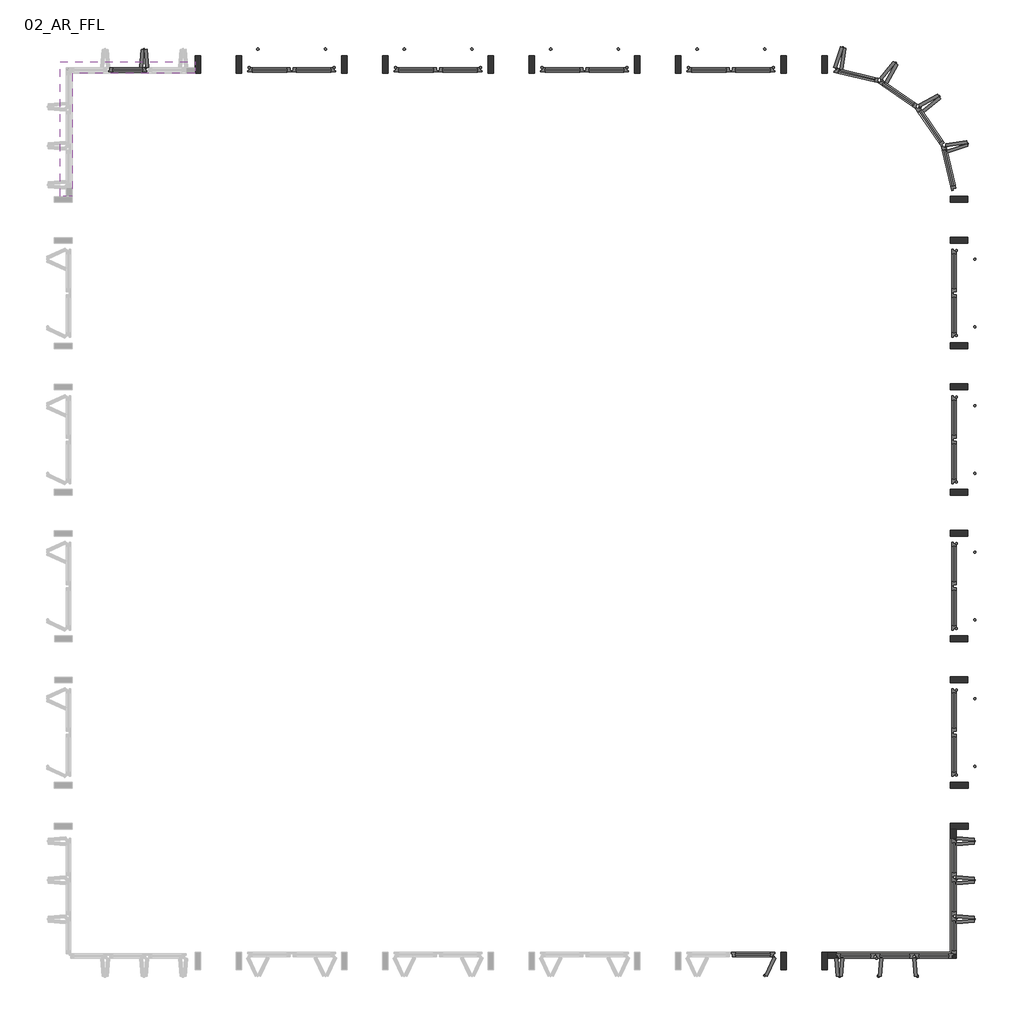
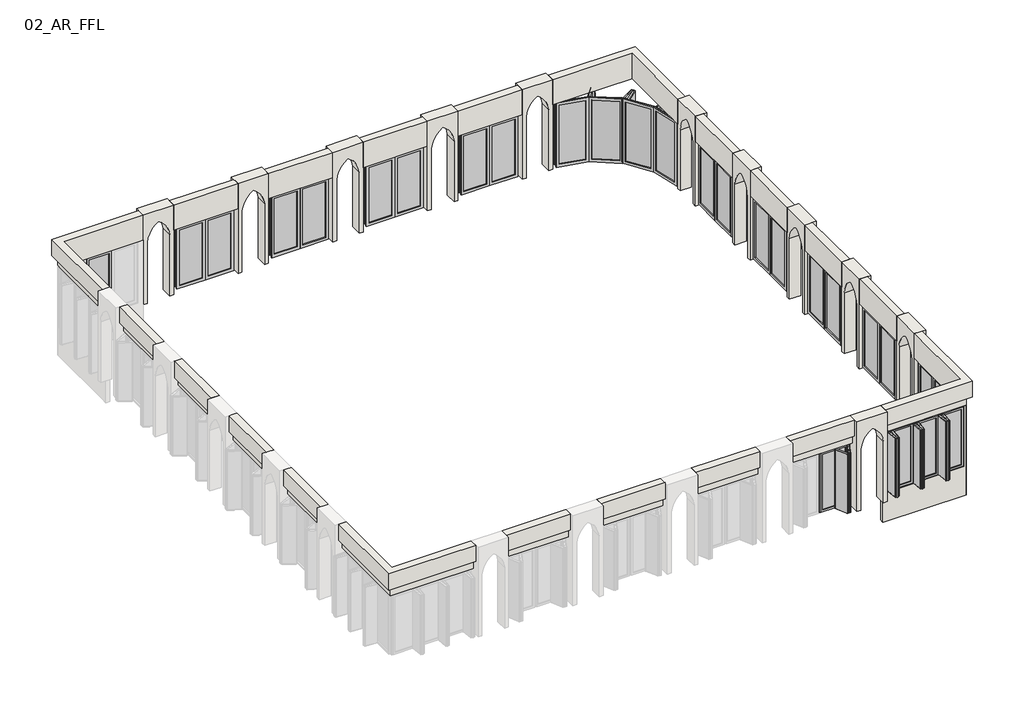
# One storey, part 2 of 2: 28 plates, 14 walls.
"""IFC4 building model written with IfcOpenShell, lengths in millimetres."""

from ifc_helpers import new_model, si_unit, point, frame, frame_2d, origin, place, context, project, spatial, polyline, circle_curve, trimmed, segment, composite_curve, outline, extrude, faceted_brep, transform, mapped, element, save
from ifc_brep_helpers import plane_surface, revolved_surface, advanced_brep
from components import vert_blinds_6ffad1b3, vert_blinds_b0ecc8bd, vert_blinds_15b416f4, vert_blinds_bcc53d70, vert_blinds_017c0e32, vert_blinds_d529f47b, vert_blinds_4d8db30e, vert_blinds_f8158ca6, vert_blinds_48d4288f, wall_94556f3f

model = new_model("IFC4")

# Units and contexts
model_context = context("Model", 3, world=origin())
ifc_project = project(units=[si_unit("LENGTHUNIT", "METRE", prefix="MILLI")], contexts=[model_context])

# Site, building, storey
site = spatial("IfcSite", under=ifc_project)
building = spatial("IfcBuilding", under=site)
storey = spatial("IfcBuildingStorey", under=building, Name="02_AR_FFL", Elevation=9000.0)

# Plates
placement = place(None, origin())
vert_blinds_shape = vert_blinds_6ffad1b3(model_context)
element("IfcPlate", 1, ObjectType="CURTAIN PANEL VODA STYLE BIFOLDING : VERT_BLINDS", at=placement, inside=storey, context=model_context, shape_type="MappedRepresentation", body=[
    mapped(vert_blinds_shape, transform((-48.5775323, -1154.430099, 9100.0), x_axis=(1.0, 0.0, 0.0), y_axis=(0.0, 1.0, 0.0), z_axis=(0.0, 0.0, 1.0))),
])
element("IfcPlate", 2, ObjectType="CURTAIN PANEL VODA STYLE BIFOLDING : VERT_BLINDS", at=placement, inside=storey, context=model_context, shape_type="MappedRepresentation", body=[
    mapped(vert_blinds_shape, transform((-2548.5775323, -1154.430099, 9100.0), x_axis=(1.0, 0.0, 0.0), y_axis=(0.0, 1.0, 0.0), z_axis=(0.0, 0.0, 1.0))),
])
element("IfcPlate", 3, ObjectType="CURTAIN PANEL VODA STYLE BIFOLDING : VERT_BLINDS", at=placement, inside=storey, context=model_context, shape_type="MappedRepresentation", body=[
    mapped(vert_blinds_shape, transform((-7548.5775323, -1154.430099, 9100.0), x_axis=(1.0, 0.0, 0.0), y_axis=(0.0, 1.0, 0.0), z_axis=(0.0, 0.0, 1.0))),
])
element("IfcPlate", 4, ObjectType="CURTAIN PANEL VODA STYLE BIFOLDING : VERT_BLINDS", at=placement, inside=storey, context=model_context, shape_type="MappedRepresentation", body=[
    mapped(vert_blinds_shape, transform((-5048.5775323, -1154.430099, 9100.0), x_axis=(1.0, 0.0, 0.0), y_axis=(0.0, 1.0, 0.0), z_axis=(0.0, 0.0, 1.0))),
])
element("IfcPlate", 5, ObjectType="CURTAIN PANEL VODA STYLE BIFOLDING : VERT_BLINDS", at=placement, inside=storey, context=model_context, shape_type="MappedRepresentation", body=[
    mapped(vert_blinds_shape, transform((4124.232124, -4577.2397554, 9100.0), x_axis=(0.0, -1.0, 0.0), y_axis=(1.0, 0.0, 0.0), z_axis=(0.0, 0.0, 1.0))),
])
element("IfcPlate", 6, ObjectType="CURTAIN PANEL VODA STYLE BIFOLDING : VERT_BLINDS", at=placement, inside=storey, context=model_context, shape_type="MappedRepresentation", body=[
    mapped(vert_blinds_shape, transform((4124.232124, -7077.2397554, 9100.0), x_axis=(0.0, -1.0, 0.0), y_axis=(1.0, 0.0, 0.0), z_axis=(0.0, 0.0, 1.0))),
])
element("IfcPlate", 7, ObjectType="CURTAIN PANEL VODA STYLE BIFOLDING : VERT_BLINDS", at=placement, inside=storey, context=model_context, shape_type="MappedRepresentation", body=[
    mapped(vert_blinds_shape, transform((4124.232124, -9577.2397554, 9100.0), x_axis=(0.0, -1.0, 0.0), y_axis=(1.0, 0.0, 0.0), z_axis=(0.0, 0.0, 1.0))),
])
element("IfcPlate", 8, ObjectType="CURTAIN PANEL VODA STYLE BIFOLDING : VERT_BLINDS", at=placement, inside=storey, context=model_context, shape_type="MappedRepresentation", body=[
    mapped(vert_blinds_shape, transform((4124.232124, -12077.2397554, 9100.0), x_axis=(0.0, -1.0, 0.0), y_axis=(1.0, 0.0, 0.0), z_axis=(0.0, 0.0, 1.0))),
])
vert_blinds_2_shape = vert_blinds_b0ecc8bd(model_context)
element("IfcPlate", 9, ObjectType="CURTAIN PANEL VODA STYLE BIFOLDING : VERT_BLINDS", at=placement, inside=storey, context=model_context, shape_type="MappedRepresentation", body=[
    mapped(vert_blinds_2_shape, transform((701.4224677, -1154.430099, 9100.0), x_axis=(-1.0, 0.0, 0.0), y_axis=(0.0, -1.0, 0.0), z_axis=(0.0, 0.0, 1.0))),
])
element("IfcPlate", 10, ObjectType="CURTAIN PANEL VODA STYLE BIFOLDING : VERT_BLINDS", at=placement, inside=storey, context=model_context, shape_type="MappedRepresentation", body=[
    mapped(vert_blinds_2_shape, transform((-1798.5775323, -1154.430099, 9100.0), x_axis=(-1.0, 0.0, 0.0), y_axis=(0.0, -1.0, 0.0), z_axis=(0.0, 0.0, 1.0))),
])
element("IfcPlate", 11, ObjectType="CURTAIN PANEL VODA STYLE BIFOLDING : VERT_BLINDS", at=placement, inside=storey, context=model_context, shape_type="MappedRepresentation", body=[
    mapped(vert_blinds_2_shape, transform((-6798.5775323, -1154.430099, 9100.0), x_axis=(-1.0, 0.0, 0.0), y_axis=(0.0, -1.0, 0.0), z_axis=(0.0, 0.0, 1.0))),
])
element("IfcPlate", 12, ObjectType="CURTAIN PANEL VODA STYLE BIFOLDING : VERT_BLINDS", at=placement, inside=storey, context=model_context, shape_type="MappedRepresentation", body=[
    mapped(vert_blinds_2_shape, transform((-4298.5775323, -1154.430099, 9100.0), x_axis=(-1.0, 0.0, 0.0), y_axis=(0.0, -1.0, 0.0), z_axis=(0.0, 0.0, 1.0))),
])
element("IfcPlate", 13, ObjectType="CURTAIN PANEL VODA STYLE BIFOLDING : VERT_BLINDS", at=placement, inside=storey, context=model_context, shape_type="MappedRepresentation", body=[
    mapped(vert_blinds_2_shape, transform((4124.232124, -5327.2397554, 9100.0), x_axis=(0.0, 1.0, 0.0), y_axis=(-1.0, 0.0, 0.0), z_axis=(0.0, 0.0, 1.0))),
])
element("IfcPlate", 14, ObjectType="CURTAIN PANEL VODA STYLE BIFOLDING : VERT_BLINDS", at=placement, inside=storey, context=model_context, shape_type="MappedRepresentation", body=[
    mapped(vert_blinds_2_shape, transform((4124.232124, -7827.2397554, 9100.0), x_axis=(0.0, 1.0, 0.0), y_axis=(-1.0, 0.0, 0.0), z_axis=(0.0, 0.0, 1.0))),
])
element("IfcPlate", 15, ObjectType="CURTAIN PANEL VODA STYLE BIFOLDING : VERT_BLINDS", at=placement, inside=storey, context=model_context, shape_type="MappedRepresentation", body=[
    mapped(vert_blinds_2_shape, transform((4124.232124, -10327.2397554, 9100.0), x_axis=(0.0, 1.0, 0.0), y_axis=(-1.0, 0.0, 0.0), z_axis=(0.0, 0.0, 1.0))),
])
element("IfcPlate", 16, ObjectType="CURTAIN PANEL VODA STYLE BIFOLDING : VERT_BLINDS", at=placement, inside=storey, context=model_context, shape_type="MappedRepresentation", body=[
    mapped(vert_blinds_2_shape, transform((4124.232124, -12827.2397554, 9100.0), x_axis=(0.0, 1.0, 0.0), y_axis=(-1.0, 0.0, 0.0), z_axis=(0.0, 0.0, 1.0))),
])
vert_blinds_3_shape = vert_blinds_15b416f4(model_context)
element("IfcPlate", 17, ObjectType="CURTAIN PANEL VODA STYLE BIFOLDING : VERT_BLINDS", at=placement, inside=storey, context=model_context, shape_type="MappedRepresentation", body=[
    mapped(vert_blinds_3_shape, transform((2457.5252924, -16254.430099, 9100.0), x_axis=(1.0, 0.0, 0.0), y_axis=(0.0, 1.0, 0.0), z_axis=(0.0, 0.0, 1.0))),
])
element("IfcPlate", 18, ObjectType="CURTAIN PANEL VODA STYLE BIFOLDING : VERT_BLINDS", at=placement, inside=storey, context=model_context, shape_type="MappedRepresentation", body=[
    mapped(vert_blinds_3_shape, transform((3124.1919591, -16254.430099, 9100.0), x_axis=(1.0, 0.0, 0.0), y_axis=(0.0, 1.0, 0.0), z_axis=(0.0, 0.0, 1.0))),
])
element("IfcPlate", 19, ObjectType="CURTAIN PANEL VODA STYLE BIFOLDING : VERT_BLINDS", at=placement, inside=storey, context=model_context, shape_type="MappedRepresentation", body=[
    mapped(vert_blinds_3_shape, transform((3790.8586258, -16254.430099, 9100.0), x_axis=(1.0, 0.0, 0.0), y_axis=(0.0, 1.0, 0.0), z_axis=(0.0, 0.0, 1.0))),
])
element("IfcPlate", 20, ObjectType="CURTAIN PANEL VODA STYLE BIFOLDING : VERT_BLINDS", at=placement, inside=storey, context=model_context, shape_type="MappedRepresentation", body=[
    mapped(vert_blinds_3_shape, transform((-9971.3470237, -1154.430099, 9100.0), x_axis=(-1.0, 0.0, 0.0), y_axis=(0.0, -1.0, 0.0), z_axis=(0.0, 0.0, 1.0))),
])
vert_blinds_4_shape = vert_blinds_bcc53d70(model_context)
element("IfcPlate", 21, ObjectType="CURTAIN PANEL VODA STYLE BIFOLDING : VERT_BLINDS", at=placement, inside=storey, context=model_context, shape_type="MappedRepresentation", body=[
    mapped(vert_blinds_4_shape, transform((4124.1919591, -15921.0967657, 9100.0), x_axis=(0.0, -1.0, 0.0), y_axis=(1.0, 0.0, 0.0), z_axis=(0.0, 0.0, 1.0))),
])
element("IfcPlate", 22, ObjectType="CURTAIN PANEL VODA STYLE BIFOLDING : VERT_BLINDS", at=placement, inside=storey, context=model_context, shape_type="MappedRepresentation", body=[
    mapped(vert_blinds_4_shape, transform((4124.1919591, -14587.7634324, 9100.0), x_axis=(0.0, -1.0, 0.0), y_axis=(1.0, 0.0, 0.0), z_axis=(0.0, 0.0, 1.0))),
])
element("IfcPlate", 23, ObjectType="CURTAIN PANEL VODA STYLE BIFOLDING : VERT_BLINDS", at=placement, inside=storey, context=model_context, shape_type="MappedRepresentation", body=[
    mapped(vert_blinds_4_shape, transform((4124.1919591, -15254.430099, 9100.0), x_axis=(0.0, -1.0, 0.0), y_axis=(1.0, 0.0, 0.0), z_axis=(0.0, 0.0, 1.0))),
])
vert_blinds_5_shape = vert_blinds_017c0e32(model_context)
element("IfcPlate", 24, ObjectType="CURTAIN PANEL VODA STYLE BIFOLDING : VERT_BLINDS", at=placement, inside=storey, context=model_context, shape_type="MappedRepresentation", body=[
    mapped(vert_blinds_5_shape, transform((701.4224677, -16229.430099, 9100.0), x_axis=(-1.0, 0.0, 0.0), y_axis=(0.0, -1.0, 0.0), z_axis=(0.0, 0.0, 1.0))),
])
vert_blinds_6_shape = vert_blinds_d529f47b(model_context)
element("IfcPlate", 25, ObjectType="CURTAIN PANEL VODA STYLE BIFOLDING : VERT_BLINDS", at=placement, inside=storey, context=model_context, shape_type="MappedRepresentation", body=[
    mapped(vert_blinds_6_shape, transform((2471.578616, -1249.5796599, 9000.0), x_axis=(0.9721730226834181, -0.2342639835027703, 0.0), y_axis=(0.2342639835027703, 0.9721730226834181, 0.0), z_axis=(0.0, 0.0, 1.0))),
])
vert_blinds_7_shape = vert_blinds_4d8db30e(model_context)
element("IfcPlate", 26, ObjectType="CURTAIN PANEL VODA STYLE BIFOLDING : VERT_BLINDS", at=placement, inside=storey, context=model_context, shape_type="MappedRepresentation", body=[
    mapped(vert_blinds_7_shape, transform((3177.0285393, -1564.5411613, 9000.0), x_axis=(0.8230618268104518, -0.5679517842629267, 0.0), y_axis=(0.5679517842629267, 0.8230618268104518, 0.0), z_axis=(0.0, 0.0, 1.0))),
])
vert_blinds_8_shape = vert_blinds_f8158ca6(model_context)
element("IfcPlate", 27, ObjectType="CURTAIN PANEL VODA STYLE BIFOLDING : VERT_BLINDS", at=placement, inside=storey, context=model_context, shape_type="MappedRepresentation", body=[
    mapped(vert_blinds_8_shape, transform((3722.3912272, -2113.5896916, 9000.0), x_axis=(0.5634683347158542, -0.8261376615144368, 0.0), y_axis=(0.8261376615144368, 0.5634683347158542, 0.0), z_axis=(0.0, 0.0, 1.0))),
])
vert_blinds_9_shape = vert_blinds_48d4288f(model_context)
element("IfcPlate", 28, ObjectType="CURTAIN PANEL VODA STYLE BIFOLDING : VERT_BLINDS", at=placement, inside=storey, context=model_context, shape_type="MappedRepresentation", body=[
    mapped(vert_blinds_9_shape, transform((4034.3748546, -2819.1956788, 9000.0), x_axis=(0.22949207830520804, -0.9733105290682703, 0.0), y_axis=(0.9733105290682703, 0.22949207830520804, 0.0), z_axis=(0.0, 0.0, 1.0))),
])

# Walls
wall_shape = wall_94556f3f(model_context)
element("IfcWall", 29, ObjectType="mukarnas_holder : mukarnas_holder", at=placement, inside=storey, context=model_context, shape_type="MappedRepresentation", body=[
    mapped(wall_shape, transform((0.0, 0.0, 0.0), x_axis=(1.0, 0.0, 0.0), y_axis=(0.0, 1.0, 0.0), z_axis=(0.0, 0.0, 1.0))),
])
element("IfcWall", 30, ObjectType="Generic - 100mm", at=placement, inside=storey, context=model_context, shape_type="Brep", body=[
    faceted_brep([(1976.4224677, -16304.430099, 8300.0), (4174.232124, -16304.430099, 8300.0), (4174.232124, -16304.430099, 10800.0), (4124.1919591, -16304.430099, 10800.0), (4124.1919591, -16304.430099, 9100.0), (2124.1919591, -16304.430099, 9100.0), (2124.1919591, -16304.430099, 10800.0), (1976.4224677, -16304.430099, 10800.0), (4074.232124, -16204.430099, 8300.0), (1976.4224677, -16204.430099, 8300.0), (1976.4224677, -16204.430099, 9000.0), (1976.4224677, -16204.430099, 10800.0), (2124.1919591, -16204.430099, 10800.0), (2124.1919591, -16204.430099, 9100.0), (4074.232124, -16204.430099, 9100.0), (4124.1919591, -16254.3899341, 10800.0), (4124.1919591, -16254.3899341, 9100.0)], [[[0, 1, 2, 3, 4, 5, 6, 7]], [[8, 9, 10, 11, 12, 13, 14]], [[1, 0, 9, 8]], [[11, 7, 6, 12]], [[3, 2, 15]], [[2, 1, 8, 14, 16, 15]], [[0, 7, 11, 10, 9]], [[5, 13, 12, 6]], [[16, 4, 3, 15]], [[13, 5, 4, 16, 14]]]),
])
element("IfcWall", 31, ObjectType="Generic - 100mm", at=placement, inside=storey, context=model_context, shape_type="Brep", body=[
    faceted_brep([(4074.232124, -14104.430099, 8300.0), (4074.232124, -16204.430099, 8300.0), (4074.232124, -16204.430099, 9100.0), (4074.232124, -14254.430099, 9100.0), (4074.232124, -14254.430099, 10800.0), (4074.232124, -14104.430099, 10800.0), (4074.232124, -14104.430099, 9000.0), (4174.232124, -16304.430099, 8300.0), (4174.232124, -14104.430099, 8300.0), (4174.232124, -14104.430099, 10800.0), (4174.232124, -14254.430099, 10800.0), (4174.232124, -14254.430099, 9100.0), (4174.232124, -16254.430099, 9100.0), (4174.232124, -16254.430099, 10800.0), (4174.232124, -16304.430099, 10800.0), (4124.232124, -16254.430099, 10800.0), (4124.232124, -16254.430099, 9100.0)], [[[0, 1, 2, 3, 4, 5, 6]], [[7, 8, 9, 10, 11, 12, 13, 14]], [[1, 0, 8, 7]], [[9, 5, 4, 10]], [[14, 13, 15]], [[1, 7, 14, 15, 16, 2]], [[0, 6, 5, 9, 8]], [[12, 16, 15, 13]], [[3, 11, 10, 4]], [[16, 12, 11, 3, 2]]]),
])
element("IfcWall", 32, ObjectType="Generic - 300mm", at=placement, inside=storey, context=model_context, shape_type="SweptSolid", body=[
    extrude(outline(composite_curve([segment(polyline([(9000.0, -8823.5775323), (9000.0, -8723.5775323), (10695.8151206, -8723.5775323)]), True, "CONTINUOUS"), segment(trimmed(circle_curve(frame_2d((10640.1496657, -8083.8020309)), 642.1925997), [point((10695.8151206, -8723.5775323))], [point((11185.0936479, -8423.5775323))], True, "CARTESIAN"), True, "CONTINUOUS"), segment(trimmed(circle_curve(frame_2d((10640.1496657, -8763.3530337)), 642.1925997), [point((11185.0936479, -8423.5775323))], [point((10695.8151206, -8123.5775323))], True, "CARTESIAN"), True, "CONTINUOUS"), segment(polyline([(10695.8151206, -8123.5775323), (9000.0, -8123.5775323), (9000.0, -8023.5775323), (11500.0, -8023.5775323), (11500.0, -8823.5775323), (9000.0, -8823.5775323)]), True, "CONTINUOUS")], self_intersect=False)), frame((0.0, -1204.430099, 0.0), z_axis=(0.0, 1.0, 0.0), x_axis=(0.0, 0.0, 1.0)), (0.0, 0.0, 1.0), 300.0),
])
element("IfcWall", 33, ObjectType="Generic - 300mm", at=placement, inside=storey, context=model_context, shape_type="SweptSolid", body=[
    extrude(outline(composite_curve([segment(polyline([(9000.0, -6323.5775323), (9000.0, -6223.5775323), (10695.8151206, -6223.5775323)]), True, "CONTINUOUS"), segment(trimmed(circle_curve(frame_2d((10640.1496657, -5583.8020309)), 642.1925997), [point((10695.8151206, -6223.5775323))], [point((11185.0936479, -5923.5775323))], True, "CARTESIAN"), True, "CONTINUOUS"), segment(trimmed(circle_curve(frame_2d((10640.1496657, -6263.3530337)), 642.1925997), [point((11185.0936479, -5923.5775323))], [point((10695.8151206, -5623.5775323))], True, "CARTESIAN"), True, "CONTINUOUS"), segment(polyline([(10695.8151206, -5623.5775323), (9000.0, -5623.5775323), (9000.0, -5523.5775323), (11500.0, -5523.5775323), (11500.0, -6323.5775323), (9000.0, -6323.5775323)]), True, "CONTINUOUS")], self_intersect=False)), frame((0.0, -1204.430099, 0.0), z_axis=(0.0, 1.0, 0.0), x_axis=(0.0, 0.0, 1.0)), (0.0, 0.0, 1.0), 300.0),
])
element("IfcWall", 34, ObjectType="Generic - 300mm", at=placement, inside=storey, context=model_context, shape_type="SweptSolid", body=[
    extrude(outline(composite_curve([segment(polyline([(9000.0, -3823.5775323), (9000.0, -3723.5775323), (10695.8151206, -3723.5775323)]), True, "CONTINUOUS"), segment(trimmed(circle_curve(frame_2d((10640.1496657, -3083.8020309)), 642.1925997), [point((10695.8151206, -3723.5775323))], [point((11185.0936479, -3423.5775323))], True, "CARTESIAN"), True, "CONTINUOUS"), segment(trimmed(circle_curve(frame_2d((10640.1496657, -3763.3530337)), 642.1925997), [point((11185.0936479, -3423.5775323))], [point((10695.8151206, -3123.5775323))], True, "CARTESIAN"), True, "CONTINUOUS"), segment(polyline([(10695.8151206, -3123.5775323), (9000.0, -3123.5775323), (9000.0, -3023.5775323), (11500.0, -3023.5775323), (11500.0, -3823.5775323), (9000.0, -3823.5775323)]), True, "CONTINUOUS")], self_intersect=False)), frame((0.0, -1204.430099, 0.0), z_axis=(0.0, 1.0, 0.0), x_axis=(0.0, 0.0, 1.0)), (0.0, 0.0, 1.0), 300.0),
])
element("IfcWall", 35, ObjectType="Generic - 300mm", at=placement, inside=storey, context=model_context, shape_type="SweptSolid", body=[
    extrude(outline(composite_curve([segment(polyline([(9000.0, -1323.5775323), (9000.0, -1223.5775323), (10695.8151206, -1223.5775323)]), True, "CONTINUOUS"), segment(trimmed(circle_curve(frame_2d((10640.1496657, -583.8020309)), 642.1925997), [point((10695.8151206, -1223.5775323))], [point((11185.0936479, -923.5775323))], True, "CARTESIAN"), True, "CONTINUOUS"), segment(trimmed(circle_curve(frame_2d((10640.1496657, -1263.3530337)), 642.1925997), [point((11185.0936479, -923.5775323))], [point((10695.8151206, -623.5775323))], True, "CARTESIAN"), True, "CONTINUOUS"), segment(polyline([(10695.8151206, -623.5775323), (9000.0, -623.5775323), (9000.0, -523.5775323), (11500.0, -523.5775323), (11500.0, -1323.5775323), (9000.0, -1323.5775323)]), True, "CONTINUOUS")], self_intersect=False)), frame((0.0, -1204.430099, 0.0), z_axis=(0.0, 1.0, 0.0), x_axis=(0.0, 0.0, 1.0)), (0.0, 0.0, 1.0), 300.0),
])
element("IfcWall", 36, ObjectType="Generic - 300mm", at=placement, inside=storey, context=model_context, shape_type="SweptSolid", body=[
    extrude(outline(composite_curve([segment(polyline([(9000.0, 1176.4224677), (9000.0, 1276.4224677), (10695.8151206, 1276.4224677)]), True, "CONTINUOUS"), segment(trimmed(circle_curve(frame_2d((10640.1496657, 1916.1979691)), 642.1925997), [point((10695.8151206, 1276.4224677))], [point((11185.0936479, 1576.4224677))], True, "CARTESIAN"), True, "CONTINUOUS"), segment(trimmed(circle_curve(frame_2d((10640.1496657, 1236.6469663)), 642.1925997), [point((11185.0936479, 1576.4224677))], [point((10695.8151206, 1876.4224677))], True, "CARTESIAN"), True, "CONTINUOUS"), segment(polyline([(10695.8151206, 1876.4224677), (9000.0, 1876.4224677), (9000.0, 1976.4224677), (11500.0, 1976.4224677), (11500.0, 1176.4224677), (9000.0, 1176.4224677)]), True, "CONTINUOUS")], self_intersect=False)), frame((0.0, -1204.430099, 0.0), z_axis=(0.0, 1.0, 0.0), x_axis=(0.0, 0.0, 1.0)), (0.0, 0.0, 1.0), 300.0),
])
element("IfcWall", 37, ObjectType="Generic - 300mm", at=placement, inside=storey, context=model_context, shape_type="SweptSolid", body=[
    extrude(outline(composite_curve([segment(polyline([(9000.0, 1176.4224677), (9000.0, 1276.4224677), (10695.8151206, 1276.4224677)]), True, "CONTINUOUS"), segment(trimmed(circle_curve(frame_2d((10640.1496657, 1916.1979691)), 642.1925997), [point((10695.8151206, 1276.4224677))], [point((11185.0936479, 1576.4224677))], True, "CARTESIAN"), True, "CONTINUOUS"), segment(trimmed(circle_curve(frame_2d((10640.1496657, 1236.6469663)), 642.1925997), [point((11185.0936479, 1576.4224677))], [point((10695.8151206, 1876.4224677))], True, "CARTESIAN"), True, "CONTINUOUS"), segment(polyline([(10695.8151206, 1876.4224677), (9000.0, 1876.4224677), (9000.0, 1976.4224677), (11500.0, 1976.4224677), (11500.0, 1176.4224677), (9000.0, 1176.4224677)]), True, "CONTINUOUS")], self_intersect=False)), frame((0.0, -16504.430099, 0.0), z_axis=(0.0, 1.0, 0.0), x_axis=(0.0, 0.0, 1.0)), (0.0, 0.0, 1.0), 300.0),
])
element("IfcWall", 38, ObjectType="Generic - 300mm", at=placement, inside=storey, context=model_context, shape_type="SweptSolid", body=[
    extrude(outline(composite_curve([segment(polyline([(-14104.430099, 9000.0), (-14104.430099, 11500.0), (-13304.430099, 11500.0), (-13304.430099, 9000.0), (-13404.430099, 9000.0), (-13404.430099, 10695.8151206)]), True, "CONTINUOUS"), segment(trimmed(circle_curve(frame_2d((-14044.2056005, 10640.1496657)), 642.1925997), [point((-13404.430099, 10695.8151206))], [point((-13704.430099, 11185.0936479))], True, "CARTESIAN"), True, "CONTINUOUS"), segment(trimmed(circle_curve(frame_2d((-13364.6545976, 10640.1496657)), 642.1925997), [point((-13704.430099, 11185.0936479))], [point((-14004.430099, 10695.8151206))], True, "CARTESIAN"), True, "CONTINUOUS"), segment(polyline([(-14004.430099, 10695.8151206), (-14004.430099, 9000.0), (-14104.430099, 9000.0)]), True, "CONTINUOUS")], self_intersect=False)), frame((4076.4224677, 0.0, 0.0), z_axis=(1.0, 0.0, 0.0), x_axis=(0.0, 1.0, 0.0)), (0.0, 0.0, 1.0), 300.0),
])
element("IfcWall", 39, ObjectType="Generic - 300mm", at=placement, inside=storey, context=model_context, shape_type="SweptSolid", body=[
    extrude(outline(composite_curve([segment(polyline([(-11602.2397554, 9000.0), (-11602.2397554, 11500.0), (-10802.2397554, 11500.0), (-10802.2397554, 9000.0), (-10902.2397554, 9000.0), (-10902.2397554, 10695.8151206)]), True, "CONTINUOUS"), segment(trimmed(circle_curve(frame_2d((-11542.0152568, 10640.1496657)), 642.1925997), [point((-10902.2397554, 10695.8151206))], [point((-11202.2397554, 11185.0936479))], True, "CARTESIAN"), True, "CONTINUOUS"), segment(trimmed(circle_curve(frame_2d((-10862.464254, 10640.1496657)), 642.1925997), [point((-11202.2397554, 11185.0936479))], [point((-11502.2397554, 10695.8151206))], True, "CARTESIAN"), True, "CONTINUOUS"), segment(polyline([(-11502.2397554, 10695.8151206), (-11502.2397554, 9000.0), (-11602.2397554, 9000.0)]), True, "CONTINUOUS")], self_intersect=False)), frame((4074.232124, 0.0, 0.0), z_axis=(1.0, 0.0, 0.0), x_axis=(0.0, 1.0, 0.0)), (0.0, 0.0, 1.0), 300.0),
])
element("IfcWall", 40, ObjectType="Generic - 300mm", at=placement, inside=storey, context=model_context, shape_type="SweptSolid", body=[
    extrude(outline(composite_curve([segment(polyline([(-9102.2397554, 9000.0), (-9102.2397554, 11500.0), (-8302.2397554, 11500.0), (-8302.2397554, 9000.0), (-8402.2397554, 9000.0), (-8402.2397554, 10695.8151206)]), True, "CONTINUOUS"), segment(trimmed(circle_curve(frame_2d((-9042.0152568, 10640.1496657)), 642.1925997), [point((-8402.2397554, 10695.8151206))], [point((-8702.2397554, 11185.0936479))], True, "CARTESIAN"), True, "CONTINUOUS"), segment(trimmed(circle_curve(frame_2d((-8362.464254, 10640.1496657)), 642.1925997), [point((-8702.2397554, 11185.0936479))], [point((-9002.2397554, 10695.8151206))], True, "CARTESIAN"), True, "CONTINUOUS"), segment(polyline([(-9002.2397554, 10695.8151206), (-9002.2397554, 9000.0), (-9102.2397554, 9000.0)]), True, "CONTINUOUS")], self_intersect=False)), frame((4074.232124, 0.0, 0.0), z_axis=(1.0, 0.0, 0.0), x_axis=(0.0, 1.0, 0.0)), (0.0, 0.0, 1.0), 300.0),
])
element("IfcWall", 41, ObjectType="Generic - 300mm", at=placement, inside=storey, context=model_context, shape_type="SweptSolid", body=[
    extrude(outline(composite_curve([segment(polyline([(-6602.2397554, 9000.0), (-6602.2397554, 11500.0), (-5802.2397554, 11500.0), (-5802.2397554, 9000.0), (-5902.2397554, 9000.0), (-5902.2397554, 10695.8151206)]), True, "CONTINUOUS"), segment(trimmed(circle_curve(frame_2d((-6542.0152568, 10640.1496657)), 642.1925997), [point((-5902.2397554, 10695.8151206))], [point((-6202.2397554, 11185.0936479))], True, "CARTESIAN"), True, "CONTINUOUS"), segment(trimmed(circle_curve(frame_2d((-5862.464254, 10640.1496657)), 642.1925997), [point((-6202.2397554, 11185.0936479))], [point((-6502.2397554, 10695.8151206))], True, "CARTESIAN"), True, "CONTINUOUS"), segment(polyline([(-6502.2397554, 10695.8151206), (-6502.2397554, 9000.0), (-6602.2397554, 9000.0)]), True, "CONTINUOUS")], self_intersect=False)), frame((4074.232124, 0.0, 0.0), z_axis=(1.0, 0.0, 0.0), x_axis=(0.0, 1.0, 0.0)), (0.0, 0.0, 1.0), 300.0),
])
element("IfcWall", 42, ObjectType="Generic - 300mm", at=placement, inside=storey, context=model_context, shape_type="AdvancedBrep", body=[
    advanced_brep(
    [(4374.232124, -4102.2397554, 9000.0), (4374.232124, -4002.2397554, 9000.0), (4374.232124, -4002.2397554, 10695.8151206), (4374.232124, -3702.2397554, 11185.0936479), (4374.232124, -3402.2397554, 10695.8151206), (4374.232124, -3402.2397554, 9000.0), (4374.232124, -3302.2397554, 9000.0), (4374.232124, -3302.2397554, 11500.0), (4374.232124, -4102.2397554, 11500.0), (4074.232124, -4102.2397554, 9000.0), (4074.232124, -4102.2397554, 11500.0), (4074.232124, -3302.2397554, 11500.0), (4074.232124, -3302.2397554, 9000.0), (4074.232124, -3402.2397554, 9000.0), (4074.232124, -3402.2397554, 10695.8151206), (4074.232124, -3702.2397554, 11185.0936479), (4074.232124, -4002.2397554, 10695.8151206), (4074.232124, -4002.2397554, 9000.0), (4076.4224677, -3302.2397554, 9000.0), (4076.4224677, -3402.2397554, 9000.0)],
    [
        (0, 1),
        (1, 2),
        (2, 3, circle_curve(frame((4374.232124, -3362.464254, 10640.1496657), z_axis=(-1.0, 0.0, 0.0), x_axis=(0.0, -1.0, 0.0)), 642.1925997)),
        (3, 4, circle_curve(frame((4374.232124, -4042.0152568, 10640.1496657), z_axis=(-1.0, 0.0, 0.0), x_axis=(0.0, -1.0, 0.0)), 642.1925997)),
        (4, 5),
        (5, 6),
        (6, 7),
        (7, 8),
        (8, 0),
        (9, 10),
        (10, 11),
        (11, 12),
        (12, 13),
        (13, 14),
        (14, 15, circle_curve(frame((4074.232124, -4042.0152568, 10640.1496657), z_axis=(1.0, 0.0, 0.0), x_axis=(0.0, -1.0, 0.0)), 642.1925997)),
        (15, 16, circle_curve(frame((4074.232124, -3362.464254, 10640.1496657), z_axis=(1.0, 0.0, 0.0), x_axis=(0.0, -1.0, 0.0)), 642.1925997)),
        (16, 17),
        (17, 9),
        (0, 9),
        (17, 1),
        (6, 18),
        (18, 12),
        (11, 7),
        (8, 10),
        (16, 2),
        (4, 14),
        (13, 19),
        (19, 5),
        (15, 3),
    ],
    [
        plane_surface(frame((4374.232124, -4102.2397554, 9000.0), z_axis=(1.0, 0.0, 0.0), x_axis=(0.0, 1.0, 0.0))),
        plane_surface(frame((4074.232124, -4102.2397554, 9000.0), z_axis=(-1.0, 0.0, 0.0), x_axis=(0.0, -1.0, 0.0))),
        plane_surface(frame((4374.232124, -4102.2397554, 9000.0), z_axis=(0.0, 0.0, -1.0), x_axis=(-1.0, 0.0, 0.0))),
        plane_surface(frame((4374.232124, -3302.2397554, 9000.0), z_axis=(0.0, 1.0, 0.0), x_axis=(-1.0, 0.0, 0.0))),
        plane_surface(frame((4374.232124, -4102.2397554, 11500.0), z_axis=(0.0, -1.0, 0.0), x_axis=(-1.0, 0.0, 0.0))),
        plane_surface(frame((4374.232124, -4002.2397554, 9000.0), z_axis=(0.0, 1.0, 0.0), x_axis=(-1.0, 0.0, 0.0))),
        plane_surface(frame((4374.232124, -3402.2397554, 10695.8151206), z_axis=(0.0, -1.0, 0.0), x_axis=(-1.0, 0.0, 0.0))),
        plane_surface(frame((4374.232124, -3402.2397554, 9000.0), z_axis=(0.0, 0.0, -1.0), x_axis=(-1.0, 0.0, 0.0))),
        revolved_surface(polyline([(4074.232124, -4004.6568537, 10640.1496657), (4374.232124, -4004.6568537, 10640.1496657)]), (4074.232124, -3362.464254, 10640.1496657), (-1.0, 0.0, 0.0)),
        revolved_surface(polyline([(4074.232124, -4684.2078565, 10640.1496657), (4374.232124, -4684.2078565, 10640.1496657)]), (4074.232124, -4042.0152568, 10640.1496657), (-1.0, 0.0, 0.0)),
        plane_surface(frame((4374.232124, -3302.2397554, 11500.0), z_axis=(0.0, 0.0, 1.0), x_axis=(-1.0, 0.0, 0.0))),
    ],
    [
        (0, [[1, 2, 3, 4, 5, 6, 7, 8, 9]]),
        (1, [[10, 11, 12, 13, 14, 15, 16, 17, 18]]),
        (2, [[-1, 19, -18, 20]]),
        (3, [[-7, 21, 22, -12, 23]]),
        (4, [[-9, 24, -10, -19]]),
        (5, [[-2, -20, -17, 25]]),
        (6, [[-5, 26, -14, 27, 28]]),
        (7, [[-6, -28, -27, -13, -22, -21]]),
        (8, [[-3, -25, -16, 29]]),
        (9, [[-4, -29, -15, -26]]),
        (10, [[-8, -23, -11, -24]]),
    ],
),
])

save(model, "model.ifc")
